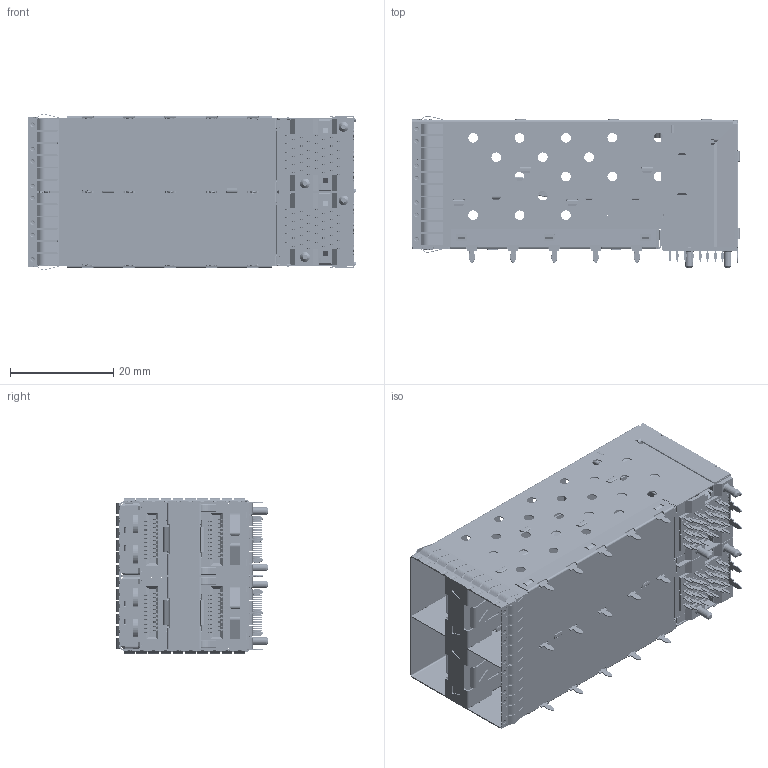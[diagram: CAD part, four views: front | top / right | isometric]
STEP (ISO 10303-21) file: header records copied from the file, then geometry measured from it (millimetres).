
FILE_DESCRIPTION (( 'STEP AP214' ), '1' );
FILE_NAME ('SSB0-0300210000-0000-X.STEP', '2021-07-14T01:34:54', ( '' ), ( '' ), 'SwSTEP 2.0', 'SolidWorks 2012', '' );
FILE_SCHEMA (( 'AUTOMOTIVE_DESIGN' ));
Products named in the file (44): SSA0-C110_SSA0-C11001XX 客戶3D-Type B-GND; SSA0-M210-P_C TYPE; SSA0-C110_SSA0-C11003XX 客戶3D-Type D-XIN; SSA0-M210-P; SSA0-M220_SSA0-M22000XX 客戶3D-Type A-GND; SSD0-P130_for 4lightpipe-LED高度0.6 max(亮面+套筒; SSA0-C110_SSA0-C11002XX 客戶3D-Type C-XIN; SSA0-M220-P_D TYPE; SSA0-M210_SSA0-M21001XX 客戶3D-Type B-XIN; SSA0-M210_SSA0-M21000XX 客戶3D-Type A-XIN; SSA0-M130 Conn+Lightpipe Ass''y-1_«È¤á3D DU Outer Lightpipe; SSD0-P150; SSA0-M220_SSA0-M22001XX 客戶3D-Type B-GND; SSA0-P110; SBA0-S130_組裝; SBD0-S140_w\DU Outerlightpipe-right ass''y; SSA0-C110_SSA0-C11000XX 客戶3D-Type A-GND; SBB0-M110-1_pressfit 1.05-2.25-legs5-DU Outer lightpipe; SBB0-S120-1_SFP+ _散_孔; SSB0-0300210000-0000-X; SBB0-S110-1_2.25-Legs16-SFP+ hole ass''y; SSA0-M220-P; SS20-S150_2*N Side Spring Ass''y; SBD0-S130-1_pressfit 1.05-2.25-Legs5-ass''y; SS20-S150_1x2-Top Spring Ass''y; SBD0-S140_w\DU Outerlightpipe-left ass''y
Assembly tree (46 placements, depth 4):
  SSB0-0300210000-0000-X
    SBB0-S110-1_2.25-Legs16-SFP+ hole ass''y
    SBB0-M110-1_pressfit 1.05-2.25-legs5-DU Outer lightpipe
      SBD0-S130-1_pressfit 1.05-2.25-Legs5-ass''y
      SBD0-S140_w\DU Outerlightpipe-left ass''y
      SBD0-S140_w\DU Outerlightpipe-right ass''y
    SBB0-S120-1_SFP+ _散_孔
    SS20-S150_2*N Side Spring Ass''y  x2
    SS20-S150_1x2-Top Spring Ass''y  x2
    SSA0-M130 Conn+Lightpipe Ass''y-1_«È¤á3D DU Outer Lightpipe  x2
      SSA0-P110
      SBA0-S130_組裝
      SSA0-M220_SSA0-M22000XX 客戶3D-Type A-GND
        SSA0-M220-P
        SSA0-C110_SSA0-C11000XX 客戶3D-Type A-GND
      SSA0-M210_SSA0-M21001XX 客戶3D-Type B-XIN
        SSA0-M210-P
        SSA0-C110_SSA0-C11003XX 客戶3D-Type D-XIN
      SSA0-M210_SSA0-M21000XX 客戶3D-Type A-XIN
        SSA0-M210-P_C TYPE
        SSA0-C110_SSA0-C11002XX 客戶3D-Type C-XIN
      SSA0-M220_SSA0-M22001XX 客戶3D-Type B-GND
        SSA0-M220-P_D TYPE
        SSA0-C110_SSA0-C11001XX 客戶3D-Type B-GND
      SSA0-M210_SSA0-M21000XX 客戶3D-Type A-XIN
        SSA0-M210-P_C TYPE
        SSA0-C110_SSA0-C11002XX 客戶3D-Type C-XIN
      SSA0-M210_SSA0-M21001XX 客戶3D-Type B-XIN
        SSA0-M210-P
        SSA0-C110_SSA0-C11003XX 客戶3D-Type D-XIN
      SSA0-M220_SSA0-M22000XX 客戶3D-Type A-GND
        SSA0-M220-P
        SSA0-C110_SSA0-C11000XX 客戶3D-Type A-GND
      SSA0-M210_SSA0-M21001XX 客戶3D-Type B-XIN
        SSA0-M210-P
        SSA0-C110_SSA0-C11003XX 客戶3D-Type D-XIN
      SSA0-M210_SSA0-M21000XX 客戶3D-Type A-XIN
        SSA0-M210-P_C TYPE
        SSA0-C110_SSA0-C11002XX 客戶3D-Type C-XIN
      SSA0-M220_SSA0-M22001XX 客戶3D-Type B-GND
        SSA0-M220-P_D TYPE
        SSA0-C110_SSA0-C11001XX 客戶3D-Type B-GND
      SSD0-P130_for 4lightpipe-LED高度0.6 max(亮面+套筒
      SSD0-P150
Bounding box: 63.5 x 29.5 x 30.25 mm (x, y, z)
Volume: 10544.6 mm3; surface area: 46091.2 mm2
Topology: 257 solids, 257 shells, 17188 faces, 45998 edges, 29188 vertices
Faces by surface type: plane 11582, cylinder 5036, bspline 218, torus 176, sphere 120, cone 56
Entity records: 332866 total; most frequent: CARTESIAN_POINT 65904, ORIENTED_EDGE 55880, DIRECTION 54788, EDGE_CURVE 27940, LINE 20160, VECTOR 20160, VERTEX_POINT 17786, AXIS2_PLACEMENT_3D 17314
